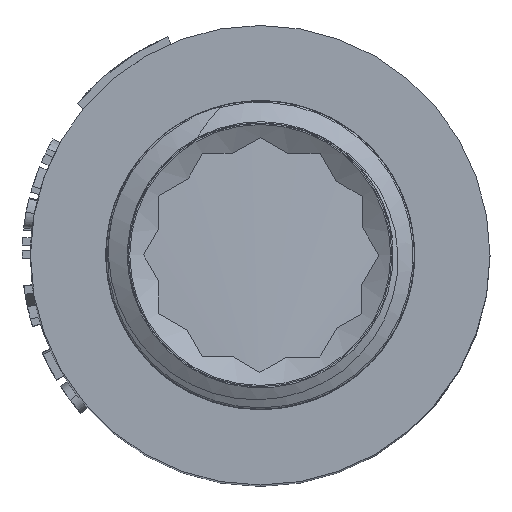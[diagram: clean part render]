
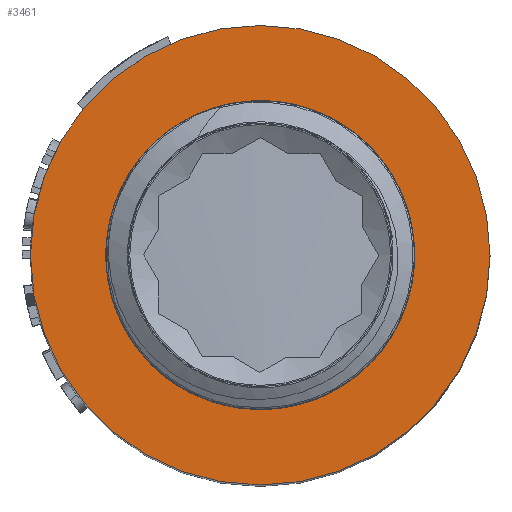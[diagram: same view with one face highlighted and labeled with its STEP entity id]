
A CAD part, top view. The second image highlights one B-rep face of the part: STEP entity #3461.
In plain terms, the highlighted planar face has unit normal (0, 0, 1).
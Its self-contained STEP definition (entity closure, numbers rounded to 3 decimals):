
#81=FACE_BOUND('',#788,.T.);
#428=PLANE('',#3692);
#580=FACE_OUTER_BOUND('',#787,.T.);
#787=EDGE_LOOP('',(#2959,#2960));
#788=EDGE_LOOP('',(#2961,#2962));
#1242=CIRCLE('',#3536,7.825);
#1245=CIRCLE('',#3539,7.825);
#1266=CIRCLE('',#3579,13.65);
#1267=CIRCLE('',#3580,13.65);
#1339=VERTEX_POINT('',#4408);
#1340=VERTEX_POINT('',#4409);
#1387=VERTEX_POINT('',#4656);
#1388=VERTEX_POINT('',#4657);
#1693=EDGE_CURVE('',#1339,#1340,#1242,.T.);
#1697=EDGE_CURVE('',#1340,#1339,#1245,.T.);
#1764=EDGE_CURVE('',#1387,#1388,#1266,.T.);
#1765=EDGE_CURVE('',#1388,#1387,#1267,.T.);
#2959=ORIENTED_EDGE('',*,*,#1764,.T.);
#2960=ORIENTED_EDGE('',*,*,#1765,.T.);
#2961=ORIENTED_EDGE('',*,*,#1693,.F.);
#2962=ORIENTED_EDGE('',*,*,#1697,.F.);
#3461=ADVANCED_FACE('',(#580,#81),#428,.T.);
#3536=AXIS2_PLACEMENT_3D('',#4410,#3763,#3764);
#3539=AXIS2_PLACEMENT_3D('',#4416,#3770,#3771);
#3579=AXIS2_PLACEMENT_3D('',#4658,#3886,#3887);
#3580=AXIS2_PLACEMENT_3D('',#4659,#3888,#3889);
#3692=AXIS2_PLACEMENT_3D('',#6942,#4245,#4246);
#3763=DIRECTION('center_axis',(0.,0.,1.));
#3764=DIRECTION('ref_axis',(1.,0.,0.));
#3770=DIRECTION('center_axis',(0.,0.,1.));
#3771=DIRECTION('ref_axis',(1.,0.,0.));
#3886=DIRECTION('center_axis',(0.,0.,1.));
#3887=DIRECTION('ref_axis',(1.,0.,0.));
#3888=DIRECTION('center_axis',(0.,0.,1.));
#3889=DIRECTION('ref_axis',(1.,0.,0.));
#4245=DIRECTION('center_axis',(0.,0.,1.));
#4246=DIRECTION('ref_axis',(1.,0.,0.));
#4408=CARTESIAN_POINT('',(0.,7.825,-10.));
#4409=CARTESIAN_POINT('',(0.,-7.825,-10.));
#4410=CARTESIAN_POINT('Origin',(0.,0.,-10.));
#4416=CARTESIAN_POINT('Origin',(0.,0.,-10.));
#4656=CARTESIAN_POINT('',(0.,-13.65,-10.));
#4657=CARTESIAN_POINT('',(0.,13.65,-10.));
#4658=CARTESIAN_POINT('Origin',(0.,0.,-10.));
#4659=CARTESIAN_POINT('Origin',(0.,0.,-10.));
#6942=CARTESIAN_POINT('Origin',(0.,-9.17,-10.));
